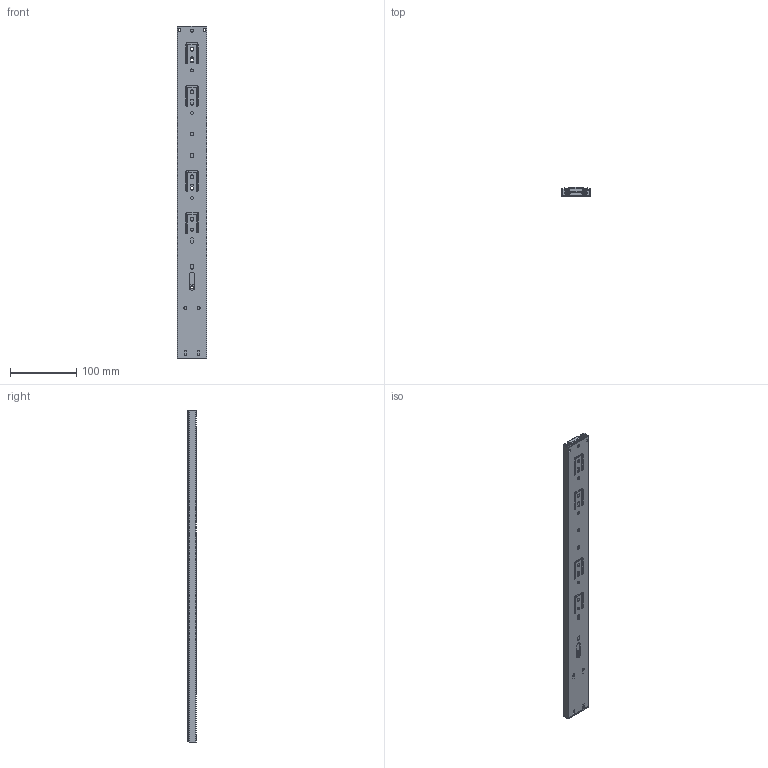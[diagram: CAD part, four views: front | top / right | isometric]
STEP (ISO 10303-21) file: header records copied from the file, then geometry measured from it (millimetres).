
FILE_DESCRIPTION(/* description */ (''),/* implementation_level */ '2;1');
FILE_NAME(/* name */ 'C:\Users\dmitruk\Documents\WORK\НАПРАВЛЯЮЩИЕ\Шариковые\Доводчик\h45 L500 с доводчиком AKS.stp',/* time_stamp */ '2022-04-19T17:46:24+03:00',/* author */ ('dmitruk'),/* organization */ ('AKS'),/* preprocessor_version */ 'ST-DEVELOPER v16.5',/* originating_system */ 'Autodesk Inventor 2017',/* authorisation */ '');
FILE_SCHEMA (('AUTOMOTIVE_DESIGN { 1 0 10303 214 3 1 1 }'));
Length unit declared in the file: millimetre
Products named in the file (6): h45 L500 с \X2\0434043E0432043E043404470438
043A043E043C\X0\ AKS; h45 L-500 AKS_11довод; h45 L-500 AKS_12довод; h45 L-450_13; h45 L-500 AKS_довод; Доводчик
Assembly tree (5 placements, depth 2):
  h45 L500 с \X2\0434043E0432043E043404470438
043A043E043C\X0\ AKS
    h45 L-500 AKS_11довод
    h45 L-500 AKS_12довод
    h45 L-450_13
    h45 L-500 AKS_довод
    Доводчик
Bounding box: 44 x 13 x 500 mm (x, y, z)
Volume: 90308.6 mm3; surface area: 159341.6 mm2
Topology: 5 solids, 5 shells, 814 faces, 2387 edges, 1555 vertices
Faces by surface type: plane 470, cylinder 288, sphere 56
Full cylindrical faces by diameter (mm): 4.5 x12, 5 x1, 5.5 x4, 6 x1
Entity records: 27679 total; most frequent: CARTESIAN_POINT 5035, ORIENTED_EDGE 4734, DIRECTION 4702, EDGE_CURVE 2367, LINE 1622, VECTOR 1622, VERTEX_POINT 1553, AXIS2_PLACEMENT_3D 1540
